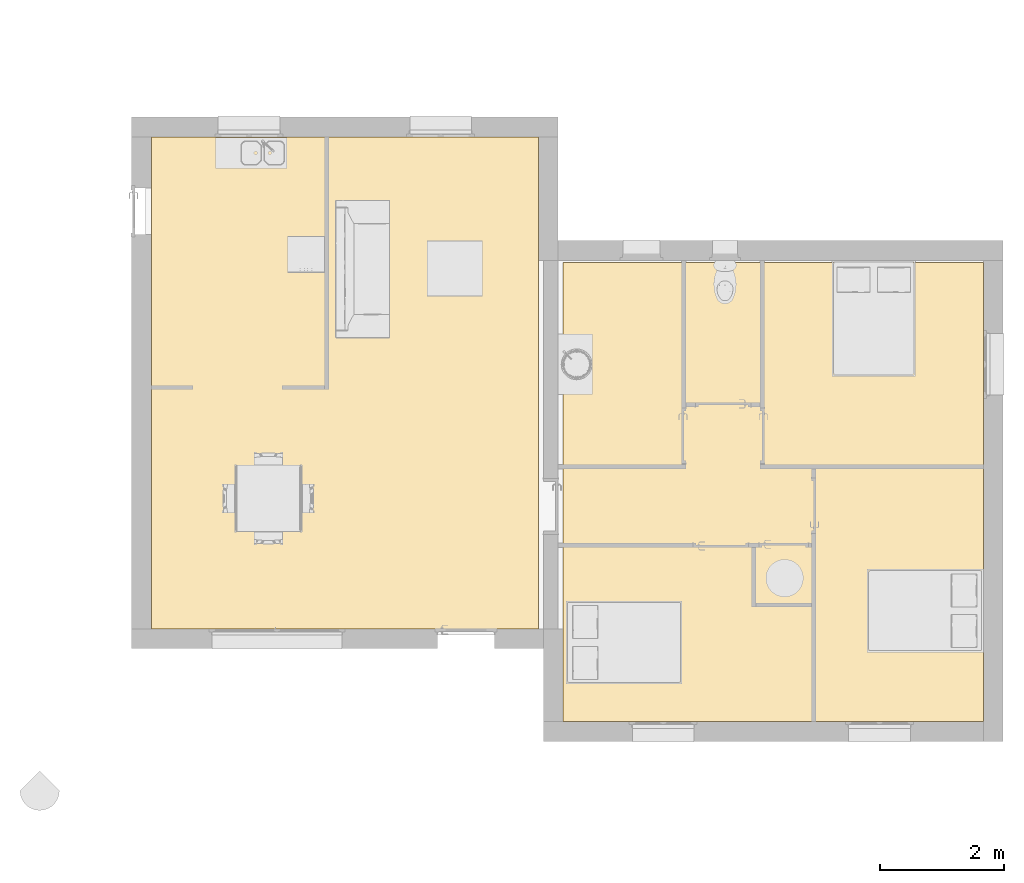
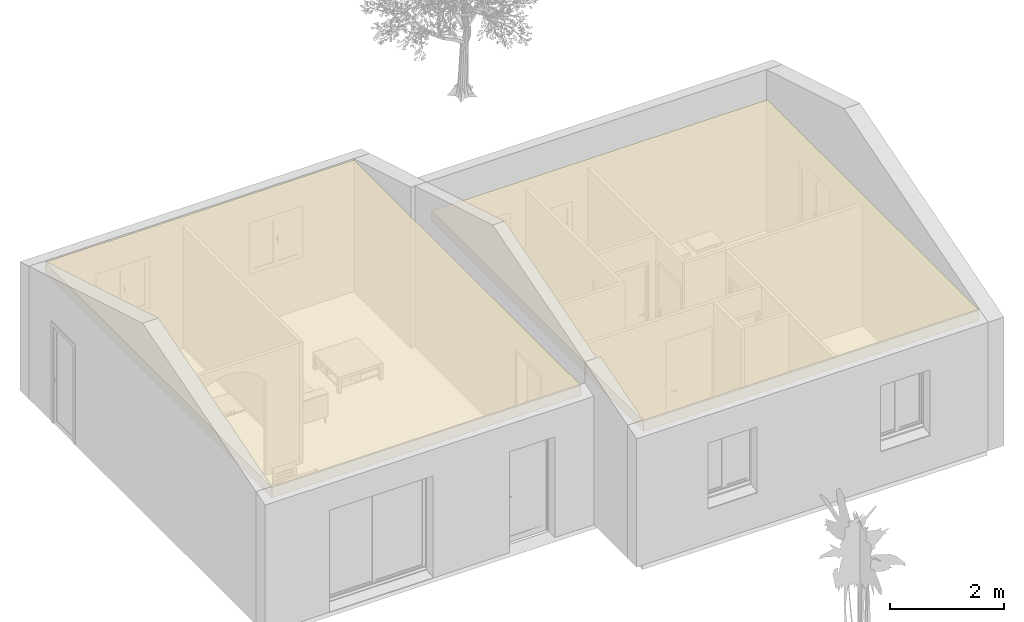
# One storey, part 15 of 18: 1 covering.
"""IFC2X3 building model written with IfcOpenShell, lengths in metres."""

import ifcopenshell
import ifcopenshell.guid

model = None  # the IFC model being written
_history = None  # IfcOwnerHistory: only IFC2X3 demands one
_inside = {}  # id of a spatial element -> (the spatial element, [elements in it])
_under = {}  # id of a project, library or spatial element -> (it, [spatial elements below it])
_declared = {}  # id of a project -> (the project, [libraries it declares])
_typed = {}  # id of a type object -> (the type object, [elements of that type])
_made_of = {}  # id of a material, layer set ... -> (it, [elements and type objects made of it])


def new_model(schema):
    """Start an empty IFC model of exactly this schema.

    Asked for "IFC4X3", IfcOpenShell would pick the latest addendum, in which some entities
    have other attributes; the version numbers below select the first issue.
    IFC2X3 requires an IfcOwnerHistory on every rooted entity: one is made here for all.
    """
    global model, _history
    if schema == "IFC4X3":
        model = ifcopenshell.file(schema_version=(4, 3, 0, 0))
    else:
        model = ifcopenshell.file(schema=schema)
    _inside.clear()
    _under.clear()
    _declared.clear()
    _typed.clear()
    _made_of.clear()
    _history = None
    if model.schema == "IFC2X3":
        org = make("IfcOrganization", Name="unknown")
        user = make(
            "IfcPersonAndOrganization",
            ThePerson=make("IfcPerson", FamilyName="unknown"),
            TheOrganization=org,
        )
        app = make(
            "IfcApplication",
            ApplicationDeveloper=org,
            Version="unknown",
            ApplicationFullName="unknown",
            ApplicationIdentifier="unknown",
        )
        _history = make(
            "IfcOwnerHistory",
            OwningUser=user,
            OwningApplication=app,
            ChangeAction="ADDED",
            CreationDate=0,
        )
    return model


def make(cls, **values):
    """One entity of the class cls with the attributes given. An attribute that is None is left unset."""
    return model.create_entity(
        cls, **{name: value for name, value in values.items() if value is not None}
    )


def entity(cls, *values):
    """Any entity or typed value of the class cls, its attributes in the order of the schema. None: left unset."""
    e = model.create_entity(cls)
    for i, value in enumerate(values):
        if value is not None:
            e[i] = value
    return e


def rooted(cls, **values):
    """An entity with a GlobalId (a new one), such as an element, a storey or a relation."""
    return make(cls, GlobalId=ifcopenshell.guid.new(), OwnerHistory=_history, **values)


def si_unit(unit_type, name, prefix=None):
    """IfcSIUnit, for example si_unit("LENGTHUNIT", "METRE", prefix="MILLI")."""
    return make("IfcSIUnit", UnitType=unit_type, Prefix=prefix, Name=name)


def converted_unit(unit_type, name, factor, base, dimensions=None, offset=None):
    """IfcConversionBasedUnit, such as the inch: factor (a typed value) times the base unit."""
    return make(
        "IfcConversionBasedUnit"
        if offset is None
        else "IfcConversionBasedUnitWithOffset",
        ConversionOffset=offset,
        Dimensions=None
        if dimensions is None
        else entity("IfcDimensionalExponents", *dimensions),
        UnitType=unit_type,
        Name=name,
        ConversionFactor=make(
            "IfcMeasureWithUnit", ValueComponent=factor, UnitComponent=base
        ),
    )


def derived_unit(unit_type, elements):
    """IfcDerivedUnit: a product of units, each with its exponent."""
    return make(
        "IfcDerivedUnit",
        Elements=[
            make("IfcDerivedUnitElement", Unit=unit, Exponent=power)
            for unit, power in elements
        ],
        UnitType=unit_type,
    )


def assignment(units):
    """IfcUnitAssignment: the units of a project."""
    return None if units is None else make("IfcUnitAssignment", Units=units)


def point(xyz):
    """IfcCartesianPoint."""
    return None if xyz is None else make("IfcCartesianPoint", Coordinates=xyz)


def direction(xyz):
    """IfcDirection."""
    return None if xyz is None else make("IfcDirection", DirectionRatios=xyz)


def frame(location, z_axis=None, x_axis=None):
    """IfcAxis2Placement3D, a coordinate frame: its origin and axes. An axis left out is left unset."""
    return make(
        "IfcAxis2Placement3D",
        Location=point(location),
        Axis=direction(z_axis),
        RefDirection=direction(x_axis),
    )


def frame_2d(location, x_axis=None):
    """IfcAxis2Placement2D, a coordinate frame in the plane: its origin and x axis."""
    return make(
        "IfcAxis2Placement2D", Location=point(location), RefDirection=direction(x_axis)
    )


def origin():
    """The frame at (0, 0, 0) with its axes left unset."""
    return frame((0.0, 0.0, 0.0))


def place(relative_to, where):
    """IfcLocalPlacement: puts the frame where relative to a parent placement (None: the world)."""
    return make(
        "IfcLocalPlacement", PlacementRelTo=relative_to, RelativePlacement=where
    )


def context(
    kind, dimensions, precision=None, world=None, true_north=None, identifier=None
):
    """IfcGeometricRepresentationContext, for example the 3D "Model" context."""
    return make(
        "IfcGeometricRepresentationContext",
        ContextIdentifier=identifier,
        ContextType=kind,
        CoordinateSpaceDimension=dimensions,
        Precision=precision,
        WorldCoordinateSystem=world,
        TrueNorth=true_north,
    )


def subcontext(parent, identifier, kind, view, scale=None):
    """IfcGeometricRepresentationSubContext, for example "Body" below "Model"."""
    return make(
        "IfcGeometricRepresentationSubContext",
        ContextIdentifier=identifier,
        ContextType=kind,
        ParentContext=parent,
        TargetScale=scale,
        TargetView=view,
    )


def project(units=None, contexts=None):
    """IfcProject with its units and contexts."""
    return rooted(
        "IfcProject",
        Name="project",
        RepresentationContexts=contexts,
        UnitsInContext=assignment(units),
    )


def spatial(cls, under=None, at=None, **own):
    """A site, building, storey or space (cls), placed at a placement, below another one or the project."""
    s = rooted(cls, ObjectPlacement=at, **own)
    if under is not None:
        _under.setdefault(under.id(), (under, []))[1].append(s)
    return s


def profile(cls, at=None, kind="AREA", **sizes):
    """A parametric profile (cls). Its sizes go by their IFC names, for example OverallWidth=200.0."""
    return make(cls, ProfileType=kind, Position=at, **sizes)


def rectangle(**sizes):
    """IfcRectangleProfileDef."""
    return profile("IfcRectangleProfileDef", **sizes)


def extrude(swept, where, along, depth):
    """IfcExtrudedAreaSolid: the profile swept, set in the frame where, extruded along a direction by depth."""
    return make(
        "IfcExtrudedAreaSolid",
        SweptArea=swept,
        Position=where,
        ExtrudedDirection=direction(along),
        Depth=depth,
    )


def shape(context_of_items, identifier, shape_type, items):
    """IfcShapeRepresentation: the items that make up one representation, for example the "Body"."""
    return make(
        "IfcShapeRepresentation",
        ContextOfItems=context_of_items,
        RepresentationIdentifier=identifier,
        RepresentationType=shape_type,
        Items=items,
    )


def material(Name=None, Category=None):
    """IfcMaterial."""
    return make("IfcMaterial", Name=Name, Category=Category)


def layer(
    of_material, thickness, ventilated=None, Name=None, Category=None, Priority=None
):
    """IfcMaterialLayer: one layer of a wall or slab, of a material (None: an air gap)."""
    return make(
        "IfcMaterialLayer",
        Material=of_material,
        LayerThickness=thickness,
        IsVentilated=ventilated,
        Name=Name,
        Category=Category,
        Priority=Priority,
    )


def layer_set(layers, Name=None):
    """IfcMaterialLayerSet."""
    return make("IfcMaterialLayerSet", MaterialLayers=layers, LayerSetName=Name)


def layer_usage(for_layer_set, set_direction, sense, offset, extent=None):
    """IfcMaterialLayerSetUsage: how a layer set lies in its element."""
    return make(
        "IfcMaterialLayerSetUsage",
        ForLayerSet=for_layer_set,
        LayerSetDirection=set_direction,
        DirectionSense=sense,
        OffsetFromReferenceLine=offset,
        ReferenceExtent=extent,
    )


def made_of(thing, what):
    """Note that an element or type object is made of a material, layer set ...; save() writes the relation."""
    if what is not None:
        _made_of.setdefault(what.id(), (what, []))[1].append(thing)
    return thing


def type_object(cls, material=None, **own):
    """A type object (cls), such as IfcWallType, which elements share."""
    return made_of(rooted(cls, **own), material)


def element(
    cls,
    number,
    at=None,
    inside=None,
    cuts=None,
    type_object=None,
    material=None,
    context=None,
    identifier="Body",
    shape_type=None,
    held_by="IfcProductDefinitionShape",
    body=None,
    shapes=None,
    **own,
):
    """One element of the class cls, such as IfcWall. Its Tag is "e" and its number.

    at: its placement. inside: the storey or other place that contains it. cuts: it is an
    opening in that element (IfcRelVoidsElement). A single representation is given by context,
    identifier, shape_type and body (its items); several are given by shapes. held_by: the class
    of the entity that holds the representations. save() writes the other relations.
    """
    e = rooted(cls, Tag="e%d" % number, ObjectPlacement=at, **own)
    if body is not None:
        shapes = [shape(context, identifier, shape_type, body)]
    if shapes is not None:
        e.Representation = make(held_by, Representations=shapes)
    if inside is not None:
        _inside.setdefault(inside.id(), (inside, []))[1].append(e)
    if cuts is not None:
        rooted(
            "IfcRelVoidsElement", RelatingBuildingElement=cuts, RelatedOpeningElement=e
        )
    if type_object is not None:
        _typed.setdefault(type_object.id(), (type_object, []))[1].append(e)
    return made_of(e, material)


def aggregate(whole, parts):
    """IfcRelAggregates: a whole, such as a stair, and the parts it consists of."""
    return rooted("IfcRelAggregates", RelatingObject=whole, RelatedObjects=parts)


def save(model, path):
    """Write the relations noted so far, then the file.

    IfcRelAggregates (storeys below a building ...), IfcRelContainedInSpatialStructure (elements
    in a storey), IfcRelDefinesByType, IfcRelAssociatesMaterial and IfcRelDeclares: one each for
    every whole, place, type object, material and project.
    """
    for whole, parts in _under.values():
        aggregate(whole, parts)
    for where, things in _inside.values():
        rooted(
            "IfcRelContainedInSpatialStructure",
            RelatedElements=things,
            RelatingStructure=where,
        )
    for kind, things in _typed.values():
        rooted("IfcRelDefinesByType", RelatedObjects=things, RelatingType=kind)
    for what, things in _made_of.values():
        rooted("IfcRelAssociatesMaterial", RelatedObjects=things, RelatingMaterial=what)
    for by, libraries in _declared.values():
        rooted("IfcRelDeclares", RelatingContext=by, RelatedDefinitions=libraries)
    model.write(path)


model = new_model("IFC2X3")

# Units and contexts
model_context = context("Model", 3, precision=1e-05, world=origin(), true_north=direction((6.12303176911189e-17, 1.0)))
body_context = subcontext(model_context, "Body", "Model", "MODEL_VIEW")
ifc_project = project(units=[si_unit("LENGTHUNIT", "METRE"), si_unit("AREAUNIT", "SQUARE_METRE"), si_unit("VOLUMEUNIT", "CUBIC_METRE"), converted_unit("PLANEANGLEUNIT", "DEGREE", entity("IfcRatioMeasure", 0.0174532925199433), si_unit("PLANEANGLEUNIT", "RADIAN"), dimensions=[0, 0, 0, 0, 0, 0, 0]), si_unit("MASSUNIT", "GRAM", prefix="KILO"), derived_unit("MASSDENSITYUNIT", [(si_unit("MASSUNIT", "GRAM", prefix="KILO"), 1), (si_unit("LENGTHUNIT", "METRE"), -3)]), derived_unit("MOMENTOFINERTIAUNIT", [(si_unit("LENGTHUNIT", "METRE"), 4)]), si_unit("TIMEUNIT", "SECOND"), si_unit("FREQUENCYUNIT", "HERTZ"), si_unit("THERMODYNAMICTEMPERATUREUNIT", "DEGREE_CELSIUS"), derived_unit("THERMALTRANSMITTANCEUNIT", [(si_unit("MASSUNIT", "GRAM", prefix="KILO"), 1), (si_unit("THERMODYNAMICTEMPERATUREUNIT", "KELVIN"), -1), (si_unit("TIMEUNIT", "SECOND"), -3)]), derived_unit("VOLUMETRICFLOWRATEUNIT", [(si_unit("LENGTHUNIT", "METRE"), 3), (si_unit("TIMEUNIT", "SECOND"), -1)]), si_unit("ELECTRICCURRENTUNIT", "AMPERE"), si_unit("ELECTRICVOLTAGEUNIT", "VOLT"), si_unit("POWERUNIT", "WATT"), si_unit("FORCEUNIT", "NEWTON", prefix="KILO"), si_unit("ILLUMINANCEUNIT", "LUX"), si_unit("LUMINOUSFLUXUNIT", "LUMEN"), si_unit("LUMINOUSINTENSITYUNIT", "CANDELA"), derived_unit("USERDEFINED", [(si_unit("MASSUNIT", "GRAM", prefix="KILO"), -1), (si_unit("LENGTHUNIT", "METRE"), -2), (si_unit("TIMEUNIT", "SECOND"), 3), (si_unit("LUMINOUSFLUXUNIT", "LUMEN"), 1)]), derived_unit("LINEARVELOCITYUNIT", [(si_unit("LENGTHUNIT", "METRE"), 1), (si_unit("TIMEUNIT", "SECOND"), -1)]), si_unit("PRESSUREUNIT", "PASCAL"), derived_unit("USERDEFINED", [(si_unit("LENGTHUNIT", "METRE"), -2), (si_unit("MASSUNIT", "GRAM", prefix="KILO"), 1), (si_unit("TIMEUNIT", "SECOND"), -2)]), derived_unit("LINEARFORCEUNIT", [(si_unit("MASSUNIT", "GRAM", prefix="KILO"), 1), (si_unit("LENGTHUNIT", "METRE"), 1), (si_unit("TIMEUNIT", "SECOND"), -2), (si_unit("LENGTHUNIT", "METRE"), -1)]), derived_unit("PLANARFORCEUNIT", [(si_unit("MASSUNIT", "GRAM", prefix="KILO"), 1), (si_unit("LENGTHUNIT", "METRE"), 1), (si_unit("TIMEUNIT", "SECOND"), -2), (si_unit("LENGTHUNIT", "METRE"), -2)])], contexts=[model_context])

# Site, building, storey
site_placement = place(None, origin())
site = spatial("IfcSite", under=ifc_project, at=site_placement, Name="Surface", CompositionType="ELEMENT")
building_placement = place(site_placement, origin())
building = spatial("IfcBuilding", under=site, at=building_placement, CompositionType="ELEMENT")
storey_placement = place(building_placement, origin())
storey = spatial("IfcBuildingStorey", under=building, at=storey_placement, Name="RDC", CompositionType="ELEMENT", Elevation=-1.94916083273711e-14)

# Covering
ifc_material_1 = material(Name="Maçonnerie - Isolant")
ifc_layer_1 = layer(ifc_material_1, 0.2)
ifc_material_2 = material(Name="Faux-plafond - Trame 600 x 600")
ifc_layer_2 = layer(ifc_material_2, 0.02)
ifc_layer_set = layer_set([ifc_layer_1, ifc_layer_2], Name="Plafond composé:Plafond avec isolation 20 cm")
ifc_layer_usage = layer_usage(ifc_layer_set, "AXIS3", "POSITIVE", 0.0)
covering_type = type_object("IfcCoveringType", Name="Plafond composé:Plafond avec isolation 20 cm", PredefinedType="CEILING")
covering_placement = place(storey_placement, origin())
element("IfcCovering", 1, at=covering_placement, inside=storey, type_object=covering_type, material=ifc_layer_usage, Name="Plafond composé:Plafond avec isolation 20 cm", ObjectType="Plafond composé:Plafond avec isolation 20 cm", PredefinedType="CEILING", context=body_context, shape_type="SweptSolid", body=[
    extrude(rectangle(XDim=6.80000000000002, YDim=7.42999999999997, at=frame_2d((0.0, -6.66133814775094e-16), x_axis=(1.0, 0.0))), frame((-7.62829269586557, 2.92237977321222, 2.6), z_axis=(0.0, 0.0, 1.0), x_axis=(-1.0, 0.0, 0.0)), (0.0, 0.0, 1.0), 0.22),
    extrude(rectangle(XDim=6.26, YDim=7.95999999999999, at=frame_2d((1.11022302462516e-15, 0.0), x_axis=(1.0, 0.0))), frame((-14.5582926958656, 4.68737977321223, 2.6), z_axis=(0.0, 0.0, 1.0), x_axis=(-1.0, 0.0, 0.0)), (0.0, 0.0, 1.0), 0.22),
])

save(model, "model.ifc")
